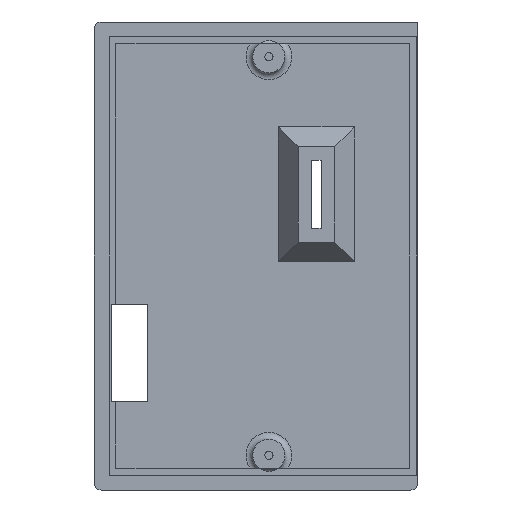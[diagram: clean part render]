
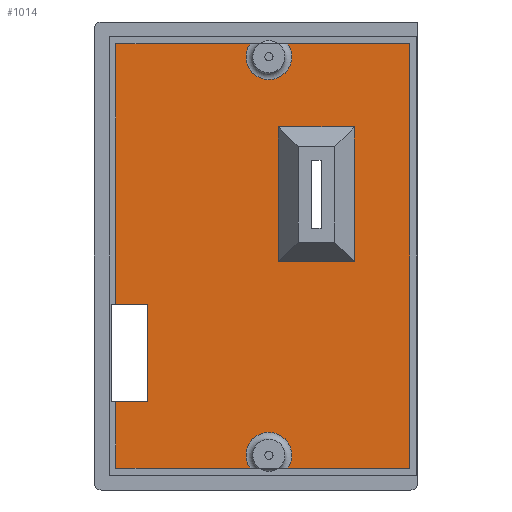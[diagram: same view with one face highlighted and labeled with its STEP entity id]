
A CAD part, left-side view. The second image highlights one B-rep face of the part: STEP entity #1014.
In plain terms, the highlighted planar face has unit normal (-1, 0, 0).
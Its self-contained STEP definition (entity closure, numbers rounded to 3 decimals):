
#52=CIRCLE('',#1095,5.);
#53=CIRCLE('',#1096,5.);
#82=FACE_BOUND('',#194,.T.);
#130=FACE_OUTER_BOUND('',#193,.T.);
#193=EDGE_LOOP('',(#856,#857,#858,#859,#860,#861,#862,#863,#864,#865,#866,
#867));
#194=EDGE_LOOP('',(#868,#869,#870,#871));
#219=LINE('',#1423,#322);
#221=LINE('',#1429,#324);
#236=LINE('',#1458,#339);
#263=LINE('',#1535,#366);
#267=LINE('',#1543,#370);
#272=LINE('',#1553,#375);
#274=LINE('',#1556,#377);
#277=LINE('',#1577,#380);
#279=LINE('',#1591,#382);
#294=LINE('',#1631,#397);
#296=LINE('',#1658,#399);
#297=LINE('',#1684,#400);
#304=LINE('',#1720,#407);
#305=LINE('',#1721,#408);
#322=VECTOR('',#1136,10.);
#324=VECTOR('',#1140,10.);
#339=VECTOR('',#1159,10.);
#366=VECTOR('',#1240,10.);
#370=VECTOR('',#1246,10.);
#375=VECTOR('',#1255,10.);
#377=VECTOR('',#1259,10.);
#380=VECTOR('',#1276,10.);
#382=VECTOR('',#1280,10.);
#397=VECTOR('',#1311,10.);
#399=VECTOR('',#1317,10.);
#400=VECTOR('',#1322,10.);
#407=VECTOR('',#1345,10.);
#408=VECTOR('',#1346,10.);
#422=VERTEX_POINT('',#1416);
#425=VERTEX_POINT('',#1421);
#427=VERTEX_POINT('',#1426);
#428=VERTEX_POINT('',#1428);
#440=VERTEX_POINT('',#1456);
#462=VERTEX_POINT('',#1533);
#463=VERTEX_POINT('',#1534);
#466=VERTEX_POINT('',#1542);
#469=VERTEX_POINT('',#1552);
#471=VERTEX_POINT('',#1567);
#473=VERTEX_POINT('',#1580);
#475=VERTEX_POINT('',#1590);
#492=VERTEX_POINT('',#1630);
#493=VERTEX_POINT('',#1649);
#494=VERTEX_POINT('',#1675);
#499=VERTEX_POINT('',#1719);
#515=EDGE_CURVE('',#422,#425,#219,.T.);
#517=EDGE_CURVE('',#428,#427,#221,.T.);
#532=EDGE_CURVE('',#427,#440,#236,.T.);
#570=EDGE_CURVE('',#462,#463,#263,.T.);
#574=EDGE_CURVE('',#466,#462,#267,.T.);
#579=EDGE_CURVE('',#463,#469,#272,.T.);
#581=EDGE_CURVE('',#469,#466,#274,.T.);
#587=EDGE_CURVE('',#425,#471,#277,.T.);
#590=EDGE_CURVE('',#475,#473,#279,.T.);
#611=EDGE_CURVE('',#492,#475,#294,.T.);
#615=EDGE_CURVE('',#493,#428,#296,.T.);
#618=EDGE_CURVE('',#494,#492,#297,.T.);
#629=EDGE_CURVE('',#494,#471,#52,.T.);
#630=EDGE_CURVE('',#493,#473,#53,.T.);
#631=EDGE_CURVE('',#440,#499,#304,.T.);
#632=EDGE_CURVE('',#499,#422,#305,.T.);
#856=ORIENTED_EDGE('',*,*,#515,.T.);
#857=ORIENTED_EDGE('',*,*,#587,.T.);
#858=ORIENTED_EDGE('',*,*,#629,.F.);
#859=ORIENTED_EDGE('',*,*,#618,.T.);
#860=ORIENTED_EDGE('',*,*,#611,.T.);
#861=ORIENTED_EDGE('',*,*,#590,.T.);
#862=ORIENTED_EDGE('',*,*,#630,.F.);
#863=ORIENTED_EDGE('',*,*,#615,.T.);
#864=ORIENTED_EDGE('',*,*,#517,.T.);
#865=ORIENTED_EDGE('',*,*,#532,.T.);
#866=ORIENTED_EDGE('',*,*,#631,.T.);
#867=ORIENTED_EDGE('',*,*,#632,.T.);
#868=ORIENTED_EDGE('',*,*,#574,.T.);
#869=ORIENTED_EDGE('',*,*,#570,.T.);
#870=ORIENTED_EDGE('',*,*,#579,.T.);
#871=ORIENTED_EDGE('',*,*,#581,.T.);
#962=PLANE('',#1094);
#1014=ADVANCED_FACE('',(#130,#82),#962,.F.);
#1094=AXIS2_PLACEMENT_3D('',#1716,#1339,#1340);
#1095=AXIS2_PLACEMENT_3D('',#1717,#1341,#1342);
#1096=AXIS2_PLACEMENT_3D('',#1718,#1343,#1344);
#1136=DIRECTION('',(0.,0.,-1.));
#1140=DIRECTION('',(0.,0.,-1.));
#1159=DIRECTION('',(0.,-1.,0.));
#1240=DIRECTION('',(0.,-1.,0.));
#1246=DIRECTION('',(0.,0.,1.));
#1255=DIRECTION('',(0.,0.,-1.));
#1259=DIRECTION('',(0.,1.,0.));
#1276=DIRECTION('',(0.,-1.,0.));
#1280=DIRECTION('',(0.,1.,0.));
#1311=DIRECTION('',(0.,0.,1.));
#1317=DIRECTION('',(0.,1.,0.));
#1322=DIRECTION('',(0.,-1.,0.));
#1339=DIRECTION('center_axis',(1.,0.,0.));
#1340=DIRECTION('ref_axis',(0.,0.,-1.));
#1341=DIRECTION('center_axis',(-1.,0.,0.));
#1342=DIRECTION('ref_axis',(0.,0.,
1.));
#1343=DIRECTION('center_axis',(-1.,0.,0.));
#1344=DIRECTION('ref_axis',(0.,0.,
-1.));
#1345=DIRECTION('',(0.,0.,-1.));
#1346=DIRECTION('',(0.,1.,0.));
#1416=CARTESIAN_POINT('',(-45.663,22.767,-57.771));
#1421=CARTESIAN_POINT('',(-45.663,22.767,-72.232));
#1423=CARTESIAN_POINT('',(-45.663,22.767,-49.116));
#1426=CARTESIAN_POINT('',(-45.663,22.767,-36.531));
#1428=CARTESIAN_POINT('',(-45.663,22.767,20.232));
#1429=CARTESIAN_POINT('',(-45.663,22.767,-49.116));
#1456=CARTESIAN_POINT('',(-45.663,15.845,-36.531));
#1458=CARTESIAN_POINT('',(-45.663,4.039,-36.531));
#1533=CARTESIAN_POINT('',(-45.663,-12.666,2.13));
#1534=CARTESIAN_POINT('',(-45.663,-29.214,2.13));
#1535=CARTESIAN_POINT('',(-45.663,-9.103,2.13));
#1542=CARTESIAN_POINT('',(-45.663,-12.666,-27.248));
#1543=CARTESIAN_POINT('',(-45.663,-12.666,-27.737));
#1552=CARTESIAN_POINT('',(-45.663,-29.214,-27.248));
#1553=CARTESIAN_POINT('',(-45.663,-29.214,-10.822));
#1556=CARTESIAN_POINT('',(-45.663,-19.603,-27.248));
#1567=CARTESIAN_POINT('',(-45.663,-6.434,-72.232));
#1577=CARTESIAN_POINT('',(-45.663,-8.121,-72.232));
#1580=CARTESIAN_POINT('',(-45.663,-14.718,20.232));
#1590=CARTESIAN_POINT('',(-45.663,-41.3,20.232));
#1591=CARTESIAN_POINT('',(-45.663,-10.221,20.232));
#1630=CARTESIAN_POINT('',(-45.663,-41.3,-72.232));
#1631=CARTESIAN_POINT('',(-45.663,-41.3,-2.884));
#1649=CARTESIAN_POINT('',(-45.663,-6.434,20.232));
#1658=CARTESIAN_POINT('',(-45.663,7.501,20.232));
#1675=CARTESIAN_POINT('',(-45.663,-14.718,-72.232));
#1684=CARTESIAN_POINT('',(-45.663,-24.533,-72.232));
#1716=CARTESIAN_POINT('Origin',(-45.663,-7.766,-26.));
#1717=CARTESIAN_POINT('Origin',(-45.663,-10.576,-69.432));
#1718=CARTESIAN_POINT('Origin',(-45.663,-10.576,17.432));
#1719=CARTESIAN_POINT('',(-45.663,15.845,-57.771));
#1720=CARTESIAN_POINT('',(-45.663,15.845,-41.885));
#1721=CARTESIAN_POINT('',(-45.663,8.351,-57.771));
